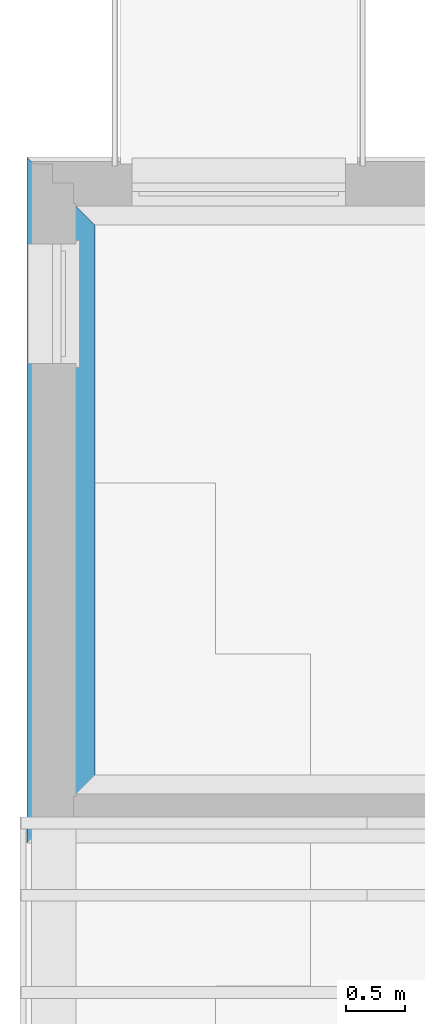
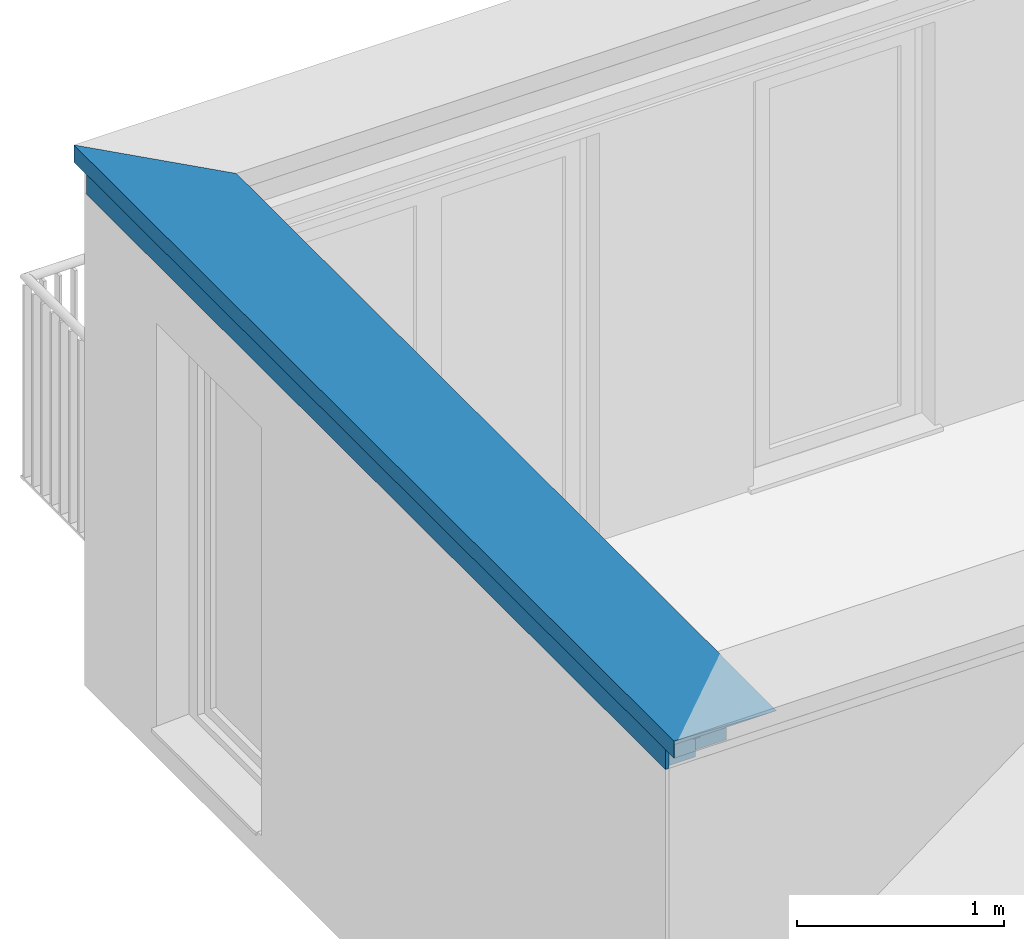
# One storey, part 3 of 15: 1 beam.
"""IFC4 building model written with IfcOpenShell, lengths in metres."""

from ifc_helpers import new_model, entity, si_unit, converted_unit, derived_unit, direction, frame, origin_with_axes, place, context, subcontext, project, spatial, triangles, material, constituent, constituent_set, type_object, element, save


model = new_model("IFC4")

# Units and contexts
model_context = context("Model", 3, precision=1e-05, world=origin_with_axes(), true_north=direction((-0.526213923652, 0.850352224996)))
body_context = subcontext(model_context, "Body", "Model", "MODEL_VIEW")
ifc_project = project(units=[si_unit("LENGTHUNIT", "METRE"), si_unit("AREAUNIT", "SQUARE_METRE"), si_unit("VOLUMEUNIT", "CUBIC_METRE"), converted_unit("PLANEANGLEUNIT", "DEGREE", entity("IfcPlaneAngleMeasure", 0.0174532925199), si_unit("PLANEANGLEUNIT", "RADIAN"), dimensions=[0, 0, 0, 0, 0, 0, 0]), si_unit("SOLIDANGLEUNIT", "STERADIAN"), converted_unit("TIMEUNIT", "Year", entity("IfcTimeMeasure", 31556926.0), si_unit("TIMEUNIT", "SECOND"), dimensions=[0, 0, 1, 0, 0, 0, 0]), si_unit("MASSUNIT", "GRAM", prefix="KILO"), si_unit("THERMODYNAMICTEMPERATUREUNIT", "DEGREE_CELSIUS"), si_unit("LUMINOUSINTENSITYUNIT", "LUMEN"), si_unit("ENERGYUNIT", "JOULE", prefix="MEGA"), derived_unit("THERMALCONDUCTANCEUNIT", [(si_unit("POWERUNIT", "WATT"), 1), (si_unit("LENGTHUNIT", "METRE"), -1), (si_unit("THERMODYNAMICTEMPERATUREUNIT", "KELVIN"), -1)]), derived_unit("SPECIFICHEATCAPACITYUNIT", [(si_unit("ENERGYUNIT", "JOULE"), 1), (si_unit("MASSUNIT", "GRAM", prefix="KILO"), -1), (si_unit("THERMODYNAMICTEMPERATUREUNIT", "KELVIN"), -1)]), derived_unit("MASSDENSITYUNIT", [(si_unit("MASSUNIT", "GRAM", prefix="KILO"), 1), (si_unit("VOLUMEUNIT", "CUBIC_METRE"), -1)])], contexts=[model_context])

# Site, building, storey, space
site_placement = place(None, origin_with_axes())
site = spatial("IfcSite", under=ifc_project, at=site_placement, Name="Gelände", CompositionType="ELEMENT")
building_placement = place(site_placement, origin_with_axes())
building = spatial("IfcBuilding", under=site, at=building_placement, Name="Haus vom Nikolaus", CompositionType="ELEMENT")
storey_placement = place(building_placement, frame((0.0, 0.0, 3.75), z_axis=(0.0, 0.0, 1.0), x_axis=(1.0, 0.0, 0.0)))
storey = spatial("IfcBuildingStorey", under=building, at=storey_placement, Name="1. OG", CompositionType="ELEMENT", Elevation=3.75)
space_placement = place(storey_placement, frame((-0.115002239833, 5.36483188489, 0.0), z_axis=(0.0, 0.0, 1.0), x_axis=(-1.0, 0.0, 0.0)))
space = spatial("IfcSpace", under=storey, at=space_placement, Name="OG", CompositionType="ELEMENT")

# Beam
ifc_material_1 = material(Name="Metall, Stahl verzinkt")
ifc_constituent_1 = constituent(ifc_material_1, Name="Component 1")
ifc_material_2 = material(Name="Holz, Spanplatte")
ifc_constituent_2 = constituent(ifc_material_2, Name="Component 2")
ifc_material_3 = material(Name="Dämmung, hart XPS")
ifc_constituent_3 = constituent(ifc_material_3, Name="Component 3")
ifc_material_4 = material(Name="Holz, Bauholz")
ifc_constituent_4 = constituent(ifc_material_4, Name="Component 4")
ifc_material_5 = material(Name="Holz, Brettschichtholz")
ifc_constituent_5 = constituent(ifc_material_5, Name="Component 5")
ifc_material_6 = material(Name="MW Kalksandstein")
ifc_constituent_6 = constituent(ifc_material_6, Name="Component 6")
ifc_constituent_7 = constituent(ifc_material_3, Name="Component 7")
ifc_constituent_8 = constituent(ifc_material_4, Name="Component 8")
ifc_material_7 = material(Name="Verputz, Kalkzement")
ifc_constituent_9 = constituent(ifc_material_7, Name="Component 9")
ifc_constituent_set = constituent_set(constituents=[ifc_constituent_1, ifc_constituent_2, ifc_constituent_3, ifc_constituent_4, ifc_constituent_5, ifc_constituent_6, ifc_constituent_7, ifc_constituent_8, ifc_constituent_9], Name="Bauteil - Attika Mauerwerk")
beam_type = type_object("IfcBeamType", Name="Bauteil - Attika Mauerwerk 574 x 270", PredefinedType="NOTDEFINED")
beam_placement = place(space_placement, frame((-0.1799998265, -7.45000017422, 2.82000000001), z_axis=(0.0, 0.0, 1.0), x_axis=(0.0, 1.0, 0.0)))
element("IfcBeam", 1, at=beam_placement, inside=space, type_object=beam_type, material=ifc_constituent_set, Name="Attika-Wand-008", ObjectType="Bauteil - Attika Mauerwerk 574 x 270", context=body_context, shape_type="Tessellation", body=[
    triangles([(5.56785996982, -0.215945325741, 0.249909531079), (5.56785996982, -0.217859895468, 0.249909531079), (5.5669026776, -0.216902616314, 0.248952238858), (-0.215945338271, -0.217859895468, 0.249909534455), (-0.216902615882, -0.216902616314, 0.248952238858), (5.56650615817, -0.214591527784, 0.251263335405), (-0.207733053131, -0.207733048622, 0.258121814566), (-0.214591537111, -0.214591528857, 0.251263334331), (5.55964768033, -0.207733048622, 0.258121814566), (5.56785996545, -0.21459152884, 0.251263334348), (5.56785996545, -0.179090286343, 0.348504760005), (5.56785996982, -0.217859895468, 0.349908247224), (5.56785996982, -0.216512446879, 0.348504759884), (5.56785996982, -0.216506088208, 0.251263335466), (-0.216510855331, -0.217859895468, 0.324039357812), (-0.179090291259, -0.217859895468, 0.348504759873), (-0.216511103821, -0.217859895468, 0.327839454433), (-0.214591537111, -0.217859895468, 0.251263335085), (-0.21785990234, -0.217859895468, 0.349908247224), (-0.216506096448, -0.217859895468, 0.251263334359), (-0.216506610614, -0.217859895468, 0.259126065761), (-0.216512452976, -0.217859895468, 0.34847171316), (-0.216512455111, -0.217859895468, 0.348504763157), (-0.216510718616, -0.217859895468, 0.321948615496), (-0.216510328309, -0.217859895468, 0.315979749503), (-0.216509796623, -0.217859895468, 0.307848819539), (-0.216509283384, -0.217859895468, 0.300000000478), (-0.214591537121, -0.216506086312, 0.251263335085), (-0.207733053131, -0.209647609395, 0.258121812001), (5.55864343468, -0.208643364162, 0.259126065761), (-0.208643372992, -0.208643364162, 0.259126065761), (5.56650615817, -0.216506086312, 0.251263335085), (-0.179090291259, -0.216512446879, 0.348504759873), (-0.216509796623, -0.216509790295, 0.307848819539), (-0.216510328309, -0.216510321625, 0.315979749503), (5.56651251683, -0.216512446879, 0.348504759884), (-0.216506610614, -0.216506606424, 0.259126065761), (-0.216506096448, -0.216506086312, 0.251263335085), (-0.216509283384, -0.216509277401, 0.300000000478), (-0.216510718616, -0.21651071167, 0.321948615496), (-0.216510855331, -0.216510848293, 0.324039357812), (-0.216511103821, -0.216511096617, 0.327839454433), (-0.216512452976, -0.216512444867, 0.34847171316), (-0.216512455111, -0.216512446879, 0.348504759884), (5.56651251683, -0.179090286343, 0.348504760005), (0.355692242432, 0.355692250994, 0.329145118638), (5.03173113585, 0.355692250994, 0.329145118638), (5.56563621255, -0.178177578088, 0.348471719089), (-0.178177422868, -0.178177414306, 0.34847171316), (-0.179090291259, -0.179090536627, 0.348504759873), (-0.178177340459, -0.215636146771, 0.348471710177), (5.56563621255, -0.215636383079, 0.348471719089), (4.99566162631, 0.354338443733, 0.327839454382), (4.99566162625, 0.355692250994, 0.327839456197), (4.99566163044, 0.355692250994, 0.324039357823), (0.355692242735, 0.355692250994, 0.324039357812), (4.99566163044, 0.355692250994, 0.321948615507), (0.355692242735, 0.355692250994, 0.321948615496), (4.99566163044, 0.355692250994, 0.322638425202), (4.99622238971, 0.355692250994, 0.229554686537), (0.355692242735, 0.355692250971, 0.229554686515), (4.9956616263, 0.355692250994, 0.230908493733), (4.99757619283, 0.355692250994, 0.230908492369), (0.355692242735, 0.355692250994, 0.230908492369), (0.355692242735, 0.355692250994, 0.238724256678), (4.99566163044, 0.355692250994, 0.238724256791), (0.355692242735, 0.355692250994, 0.239999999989), (4.99566163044, 0.355692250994, 0.239999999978), (4.99566163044, 0.355692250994, 0.248952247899), (0.355692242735, 0.355692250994, 0.248952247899), (4.99566163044, 0.355692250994, 0.251263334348), (0.355692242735, 0.355692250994, 0.251263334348), (4.99566163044, 0.355692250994, 0.259126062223), (0.355692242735, 0.355692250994, 0.259126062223), (4.99566163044, 0.355692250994, 0.320551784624), (0.355692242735, 0.355692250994, 0.327839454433), (0.355692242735, 0.355692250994, 0.315979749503), (4.99566163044, 0.355692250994, 0.315979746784), (0.355692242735, 0.355692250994, 0.307848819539), (4.99566163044, 0.355692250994, 0.307848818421), (4.99566163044, 0.355692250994, 0.300000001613), (0.355692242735, 0.355692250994, 0.300000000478), (0.355692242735, 0.318268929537, 0.329145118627), (0.355692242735, 0.354338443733, 0.327839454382), (4.99566163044, 0.354338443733, 0.324039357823), (4.99566162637, 0.354338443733, 0.230908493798), (4.99757619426, 0.354338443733, 0.230908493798), (4.99526511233, 0.35473497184, 0.228597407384), (4.99757619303, 0.352423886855, 0.230908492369), (0.354734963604, 0.35473497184, 0.228597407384), (0.355692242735, 0.354338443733, 0.230908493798), (0.355692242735, 0.353777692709, 0.229554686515), (0.355692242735, 0.352423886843, 0.230908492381), (0.355692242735, 0.354338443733, 0.238724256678), (0.355692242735, 0.354338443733, 0.239999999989), (0.355692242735, 0.354338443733, 0.248952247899), (0.355692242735, 0.354338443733, 0.251263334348), (0.355692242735, 0.354338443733, 0.259126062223), (0.355692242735, 0.354338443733, 0.300000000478), (0.355692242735, 0.354338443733, 0.307848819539), (0.355692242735, 0.354338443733, 0.315979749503), (0.355692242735, 0.354338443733, 0.321948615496), (0.355692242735, 0.354338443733, 0.324039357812), (4.99566163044, 0.354338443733, 0.322638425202), (4.99566163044, 0.354338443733, 0.321948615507), (4.99566163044, 0.354338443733, 0.320551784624), (4.99566163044, 0.354338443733, 0.315979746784), (4.99566163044, 0.354338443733, 0.307848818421), (4.99566163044, 0.354338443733, 0.300000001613), (4.99566163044, 0.354338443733, 0.259126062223), (4.99566163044, 0.354338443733, 0.251263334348), (4.99566163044, 0.354338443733, 0.248952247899), (4.99566163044, 0.354338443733, 0.239999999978), (4.99566163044, 0.354338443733, 0.238724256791), (5.00347737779, 0.346522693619, 0.238724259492), (5.00448162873, 0.347433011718, 0.237813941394), (0.346522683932, 0.346522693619, 0.238724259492), (0.35433843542, 0.354338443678, 0.23090849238), (5.00448162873, 0.345518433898, 0.237813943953), (0.34743299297, 0.345518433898, 0.237813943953), (0.35433843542, 0.35242388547, 0.23090849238)], [[1, 2, 3], [2, 4, 3], [5, 3, 4], [6, 1, 3], [7, 3, 8], [8, 3, 5], [6, 3, 9], [7, 9, 3], [1, 6, 10], [11, 12, 13], [14, 1, 10], [2, 13, 12], [13, 2, 14], [1, 14, 2], [15, 16, 17], [4, 2, 18], [12, 19, 16], [16, 2, 12], [20, 18, 21], [2, 16, 18], [17, 16, 22], [22, 16, 23], [24, 16, 15], [25, 16, 24], [26, 16, 25], [27, 16, 26], [21, 16, 27], [16, 21, 18], [28, 5, 4], [5, 28, 8], [28, 4, 18], [28, 29, 8], [7, 8, 29], [9, 7, 30], [31, 30, 7], [30, 6, 9], [6, 30, 32], [10, 32, 14], [10, 6, 32], [33, 34, 35], [33, 32, 28], [36, 14, 32], [37, 28, 38], [33, 39, 34], [33, 37, 39], [33, 35, 40], [33, 40, 41], [33, 41, 42], [33, 42, 43], [33, 43, 44], [36, 32, 33], [37, 33, 28], [14, 36, 13], [11, 36, 45], [36, 11, 13], [45, 12, 11], [46, 12, 47], [47, 12, 48], [48, 12, 45], [49, 12, 46], [50, 19, 12], [49, 50, 12], [50, 33, 19], [19, 33, 16], [44, 16, 33], [44, 23, 16], [44, 22, 23], [44, 43, 22], [43, 17, 22], [17, 43, 42], [42, 15, 17], [15, 42, 41], [41, 24, 15], [24, 41, 40], [40, 25, 24], [25, 40, 35], [35, 26, 25], [26, 35, 34], [34, 27, 26], [27, 34, 39], [21, 39, 37], [21, 27, 39], [37, 20, 21], [20, 37, 38], [20, 28, 18], [28, 20, 38], [29, 32, 30], [29, 30, 31], [32, 29, 28], [31, 7, 29], [51, 36, 33], [51, 52, 36], [52, 45, 36], [52, 48, 45], [52, 53, 48], [54, 47, 53], [53, 47, 48], [55, 56, 54], [57, 58, 59], [60, 61, 62], [60, 62, 63], [64, 62, 61], [65, 62, 64], [66, 67, 68], [69, 70, 71], [71, 72, 73], [73, 72, 74], [75, 58, 57], [56, 59, 58], [59, 56, 55], [54, 56, 76], [54, 76, 46], [54, 46, 47], [66, 62, 65], [58, 75, 77], [78, 77, 75], [77, 78, 79], [80, 79, 78], [81, 79, 80], [79, 81, 82], [73, 82, 81], [82, 73, 74], [72, 71, 70], [70, 69, 67], [68, 67, 69], [67, 66, 65], [49, 83, 51], [49, 46, 83], [33, 50, 51], [49, 51, 50], [53, 83, 84], [83, 52, 51], [83, 53, 52], [55, 53, 85], [55, 54, 53], [63, 86, 87], [63, 62, 86], [60, 87, 88], [88, 87, 89], [60, 63, 87], [61, 88, 90], [61, 60, 88], [61, 91, 64], [91, 92, 93], [91, 61, 92], [65, 91, 94], [65, 64, 91], [95, 65, 94], [95, 67, 65], [67, 96, 70], [96, 67, 95], [72, 96, 97], [72, 70, 96], [74, 97, 98], [74, 72, 97], [82, 98, 99], [82, 74, 98], [79, 99, 100], [79, 82, 99], [77, 100, 101], [77, 79, 100], [58, 101, 102], [58, 77, 101], [56, 102, 103], [56, 58, 102], [56, 84, 76], [84, 56, 103], [76, 84, 46], [46, 84, 83], [59, 85, 104], [59, 55, 85], [57, 104, 105], [57, 59, 104], [75, 105, 106], [75, 57, 105], [75, 107, 78], [75, 106, 107], [78, 108, 80], [108, 78, 107], [81, 108, 109], [81, 80, 108], [73, 109, 110], [73, 81, 109], [73, 111, 71], [73, 110, 111], [71, 112, 69], [112, 71, 111], [68, 112, 113], [68, 69, 112], [68, 114, 66], [114, 68, 113], [66, 86, 62], [66, 114, 86], [112, 95, 113], [99, 109, 100], [109, 99, 110], [108, 100, 109], [107, 100, 108], [100, 107, 101], [106, 101, 107], [101, 106, 102], [105, 102, 106], [104, 102, 105], [102, 104, 103], [85, 103, 104], [53, 103, 85], [103, 53, 84], [110, 98, 111], [98, 110, 99], [97, 111, 98], [111, 97, 112], [96, 112, 97], [95, 112, 96], [113, 95, 114], [94, 114, 95], [114, 94, 86], [91, 86, 94], [87, 115, 116], [115, 91, 117], [115, 87, 86], [91, 115, 86], [117, 91, 118], [116, 89, 87], [89, 116, 119], [89, 93, 88], [93, 120, 121], [90, 88, 92], [88, 93, 92], [93, 119, 120], [119, 93, 89], [90, 92, 61], [118, 93, 121], [93, 118, 91], [117, 121, 120], [117, 118, 121], [115, 120, 119], [115, 117, 120], [115, 119, 116]], closed=True),
    triangles([(5.56635953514, -0.216359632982, 0.327753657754), (0.354335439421, -0.216359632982, 0.327753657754), (5.45999593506, -0.109995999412, 0.324039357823), (0.354205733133, -0.109995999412, 0.324039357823), (5.56635969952, 0.35433544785, 0.327753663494), (5.45999593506, 0.354205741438, 0.324039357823), (5.56563621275, -0.215636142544, 0.348471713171), (0.354338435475, -0.216356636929, 0.327839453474), (5.56635670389, -0.216356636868, 0.32783945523), (-0.215635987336, -0.215636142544, 0.348471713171), (0.354338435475, 0.354338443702, 0.327839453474), (0.354205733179, 0.354205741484, 0.324039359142), (5.41987861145, -0.0698786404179, 0.322638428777), (5.40012505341, -0.0501249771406, 0.321948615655), (0.354132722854, -0.0501249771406, 0.321948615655), (5.41987861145, 0.354156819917, 0.322638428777), (5.56635670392, 0.354338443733, 0.327839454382), (5.40012504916, 0.354132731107, 0.321948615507), (5.36012504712, 0.354083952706, 0.320551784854), (5.22919902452, 0.353924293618, 0.315979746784), (4.99635971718, 0.353640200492, 0.307848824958), (0.353924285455, 0.353924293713, 0.315979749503), (0.353640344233, 0.353640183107, 0.307848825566), (0.354132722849, 0.354132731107, 0.321948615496), (5.36012504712, -0.0101249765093, 0.320551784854), (0.353924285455, 0.120800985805, 0.315979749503), (5.22919902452, 0.120801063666, 0.315979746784)], [[1, 2, 3], [4, 3, 2], [5, 3, 6], [3, 5, 1], [7, 8, 9], [7, 10, 8], [9, 8, 1], [8, 2, 1], [8, 11, 4], [8, 4, 2], [12, 4, 11], [3, 4, 13], [14, 4, 15], [4, 14, 13], [6, 13, 16], [13, 6, 3], [11, 17, 6], [11, 18, 19], [11, 20, 21], [11, 19, 20], [22, 21, 23], [24, 21, 22], [12, 21, 24], [11, 21, 12], [5, 6, 17], [11, 16, 18], [11, 6, 16], [1, 5, 9], [17, 9, 5], [17, 7, 9], [11, 7, 17], [7, 11, 10], [11, 8, 10], [4, 12, 15], [24, 15, 12], [14, 15, 25], [21, 26, 23], [21, 15, 26], [27, 25, 15], [27, 15, 21], [16, 14, 18], [14, 16, 13], [18, 25, 19], [25, 18, 14], [19, 27, 20], [27, 19, 25], [20, 27, 21], [23, 26, 22], [15, 24, 26], [22, 26, 24]], closed=True),
    triangles([(0.310282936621, 0.31028294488, 0.300000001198), (5.15000006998, 0.2, 0.300000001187), (5.15000006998, 0.31028294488, 0.300000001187), (0.310282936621, 0.2, 0.300000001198), (5.15000006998, 0.31028294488, 0.259126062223), (5.15000006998, 0.2, 0.259126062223), (0.310282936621, 0.31028294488, 0.248952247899), (5.15000006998, 0.31028294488, 0.248952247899), (0.310282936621, 0.31028294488, 0.239999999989), (5.15000006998, 0.31028294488, 0.23872425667), (0.310282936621, 0.31028294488, 0.23872425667), (5.15000006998, 0.31028294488, 0.239999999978), (0.310282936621, 0.31028294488, 0.230908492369), (5.15000006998, 0.31028294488, 0.230908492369), (0.310282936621, 0.31028294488, 0.22859740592), (5.15000006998, 0.31028294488, 0.22859740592), (0.310282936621, 0.31028294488, 0.079999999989), (5.15000006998, 0.31028294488, 0.079999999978), (5.15000006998, 0.31028294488, 0.251263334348), (0.310282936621, 0.31028294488, 0.251263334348), (0.310282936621, 0.31028294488, 0.259126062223), (0.310282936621, 0.2, 0.259126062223), (5.15000006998, 0.2, 0.248952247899), (0.310282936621, 0.2, 0.251263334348), (0.310282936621, 0.2, 0.248952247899), (5.15000006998, 0.2, 0.239999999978), (0.310282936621, 0.2, 0.23872425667), (5.15000006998, 0.2, 0.23872425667), (0.310282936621, 0.2, 0.230908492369), (5.15000006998, 0.2, 0.230908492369), (5.15000006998, 0.2, 0.22859740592), (0.310282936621, 0.2, 0.22859740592), (0.310282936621, 0.2, 0.079999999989), (5.15000006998, 0.2, 0.079999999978), (5.15000006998, 0.2, 0.251263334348), (0.310282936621, 0.2, 0.239999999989)], [[1, 2, 3], [1, 4, 2], [2, 5, 3], [2, 6, 5], [7, 8, 9], [10, 11, 12], [9, 12, 11], [11, 10, 13], [14, 13, 10], [13, 14, 15], [16, 15, 14], [15, 16, 17], [17, 16, 18], [8, 7, 19], [12, 9, 8], [20, 19, 7], [19, 20, 5], [21, 5, 20], [5, 21, 3], [1, 3, 21], [21, 4, 1], [21, 22, 4], [2, 22, 6], [22, 2, 4], [23, 24, 25], [24, 6, 22], [26, 27, 28], [29, 30, 27], [30, 29, 31], [31, 29, 32], [31, 33, 34], [35, 6, 24], [33, 31, 32], [28, 27, 30], [27, 26, 36], [23, 36, 26], [36, 23, 25], [35, 24, 23], [35, 5, 6], [35, 19, 5], [23, 19, 35], [23, 8, 19], [26, 8, 23], [26, 12, 8], [10, 26, 28], [26, 10, 12], [30, 10, 28], [30, 14, 10], [31, 14, 30], [31, 16, 14], [34, 16, 31], [34, 18, 16], [33, 18, 34], [33, 17, 18], [33, 15, 17], [15, 33, 32], [15, 29, 13], [15, 32, 29], [13, 27, 11], [13, 29, 27], [11, 36, 9], [11, 27, 36], [9, 25, 7], [9, 36, 25], [7, 24, 20], [7, 25, 24], [20, 22, 21], [20, 24, 22]], closed=True),
    triangles([(0.180110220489, 0.180110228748, 0.313880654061), (5.23000007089, 0.12, 0.315979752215), (5.23000007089, 0.180110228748, 0.313880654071), (0.119999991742, 0.12, 0.315979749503), (5.23000007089, 0.12, 0.307848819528), (5.23000007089, 0.18006232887, 0.307848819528), (0.180062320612, 0.18006232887, 0.307848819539), (5.23000007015, 0.18, 0.300000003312), (0.179999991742, 0.18, 0.300000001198), (0.180110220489, 0.12, 0.313880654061), (5.23000007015, 0.12, 0.300000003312), (0.180062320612, 0.12, 0.307848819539), (0.179999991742, 0.12, 0.300000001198)], [[1, 2, 3], [1, 4, 2], [5, 3, 2], [3, 5, 6], [6, 1, 3], [7, 8, 9], [1, 8, 7], [8, 1, 6], [10, 4, 1], [2, 10, 5], [10, 2, 4], [11, 10, 12], [11, 12, 13], [10, 11, 5], [8, 5, 11], [5, 8, 6], [13, 8, 11], [13, 9, 8], [9, 12, 7], [9, 13, 12], [10, 7, 12], [7, 10, 1]], closed=True),
    triangles([(0.199999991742, 0.2, 0.259126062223), (5.40001871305, 0.2, 0.248952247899), (0.199999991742, 0.2, 0.251263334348), (5.40000007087, 0.2, 0.240000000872), (0.199999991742, 0.2, 0.248952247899), (0.199999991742, 0.2, 0.239999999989), (5.40002352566, 0.2, 0.251263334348), (0.199999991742, 0.2, 0.300000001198), (5.40003989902, 0.2, 0.259126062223), (5.40012501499, 0.2, 0.300000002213), (5.40012501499, 0.18, 0.300000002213), (5.40012501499, -0.0501249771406, 0.300000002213), (5.40012501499, 0.12, 0.300000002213), (5.40003989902, -0.160039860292, 0.259126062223), (5.40012501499, -0.110124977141, 0.300000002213), (5.40012501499, -0.160124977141, 0.300000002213), (5.40002352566, -0.160023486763, 0.251263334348), (5.40001871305, -0.160018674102, 0.248952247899), (5.40000007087, -0.160000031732, 0.240000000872), (0.199999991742, -0.160000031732, 0.239999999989), (0.199999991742, -0.160018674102, 0.248952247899), (0.199999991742, -0.160023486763, 0.251263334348), (0.199999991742, -0.160039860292, 0.259126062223), (0.199999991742, -0.0501249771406, 0.300000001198), (0.199999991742, -0.110124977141, 0.300000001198), (0.199999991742, 0.18, 0.300000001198), (0.199999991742, 0.12, 0.300000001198), (0.199999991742, -0.160124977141, 0.300000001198)], [[1, 2, 3], [4, 5, 2], [3, 2, 5], [5, 4, 6], [2, 1, 7], [8, 9, 1], [7, 1, 9], [9, 8, 10], [11, 9, 10], [12, 9, 13], [13, 9, 11], [9, 12, 14], [15, 14, 12], [16, 14, 15], [17, 9, 14], [17, 7, 9], [18, 7, 17], [18, 2, 7], [19, 2, 18], [19, 4, 2], [20, 4, 19], [20, 6, 4], [20, 5, 6], [5, 20, 21], [21, 3, 5], [3, 21, 22], [22, 1, 3], [1, 22, 23], [24, 23, 25], [1, 26, 8], [27, 26, 1], [25, 23, 28], [23, 24, 1], [27, 1, 24], [8, 11, 10], [8, 26, 11], [26, 13, 11], [26, 27, 13], [27, 12, 13], [27, 24, 12], [24, 15, 12], [24, 25, 15], [25, 16, 15], [25, 28, 16], [23, 14, 28], [28, 14, 16], [18, 23, 22], [19, 21, 20], [18, 21, 19], [17, 14, 23], [21, 18, 22], [17, 23, 18]], closed=True),
    triangles([(0.199999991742, 0.2, 0.239999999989), (5.35000006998, 0.0, 0.239999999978), (5.35000006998, 0.2, 0.239999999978), (0.199999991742, 0.0, 0.239999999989), (5.35000006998, 0.2, 0.23872425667), (5.35000006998, 0.0, 0.23872425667), (0.199999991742, 0.2, 0.23872425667), (0.199999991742, 0.2, 0.230908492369), (5.35000006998, 0.2, 0.22859740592), (0.199999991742, 0.2, 0.22859740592), (5.35000006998, 0.2, 0.230908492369), (0.199999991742, 0.2, 0.0800000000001), (5.35000006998, 0.2, 0.079999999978), (0.199999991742, 0.0, 0.23872425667), (5.35000006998, 0.0, 0.22859740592), (0.199999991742, 0.0, 0.230908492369), (0.199999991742, 0.0, 0.22859740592), (0.199999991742, 0.0, 0.0800000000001), (5.35000006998, 0.0, 0.079999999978), (5.35000006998, 0.0, 0.230908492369)], [[1, 2, 3], [1, 4, 2], [2, 5, 3], [2, 6, 5], [7, 5, 8], [9, 10, 11], [8, 11, 10], [10, 9, 12], [12, 9, 13], [5, 7, 3], [11, 8, 5], [1, 3, 7], [7, 4, 1], [7, 14, 4], [2, 14, 6], [14, 2, 4], [15, 16, 17], [16, 6, 14], [15, 18, 19], [20, 6, 16], [18, 15, 17], [20, 16, 15], [20, 5, 6], [20, 11, 5], [15, 11, 20], [15, 9, 11], [19, 9, 15], [19, 13, 9], [18, 13, 19], [18, 12, 13], [18, 10, 12], [10, 18, 17], [10, 16, 8], [10, 17, 16], [8, 14, 7], [8, 16, 14]], closed=True),
    triangles([(-8.2582243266e-09, 0.0, 0.239999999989), (5.40000007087, -0.16, 0.240000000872), (5.40000007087, 0.0, 0.240000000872), (-8.2582243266e-09, -0.16, 0.239999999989), (5.40000007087, -0.16, 0.23872425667), (5.40000007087, 0.0, 0.23872425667), (-8.2582243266e-09, 0.0, 0.23872425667), (-8.2582243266e-09, 0.0, 0.230908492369), (5.40000007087, 0.0, 0.22859740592), (-8.25822255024e-09, 0.0, 0.22859740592), (5.40000007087, 0.0, 0.230908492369), (-8.25820123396e-09, 0.0, 0.0799999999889), (5.40000007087, 0.0, 0.079999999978), (-8.2582243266e-09, -0.16, 0.23872425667), (5.40000007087, -0.16, 0.230908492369), (-8.25822255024e-09, -0.16, 0.22859740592), (5.40000007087, -0.16, 0.22859740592), (-8.2582243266e-09, -0.16, 0.230908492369), (-8.25820123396e-09, -0.16, 0.0799999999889), (5.40000007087, -0.16, 0.079999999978)], [[1, 2, 3], [1, 4, 2], [5, 3, 2], [3, 5, 6], [7, 6, 8], [9, 10, 11], [8, 11, 10], [10, 9, 12], [12, 9, 13], [11, 8, 6], [6, 1, 3], [1, 6, 7], [7, 4, 1], [7, 14, 4], [14, 5, 4], [4, 5, 2], [15, 16, 17], [18, 5, 14], [17, 19, 20], [15, 5, 18], [19, 17, 16], [16, 15, 18], [15, 6, 5], [15, 11, 6], [17, 11, 15], [17, 9, 11], [20, 9, 17], [20, 13, 9], [19, 13, 20], [19, 12, 13], [19, 10, 12], [10, 19, 16], [10, 18, 8], [10, 16, 18], [8, 14, 7], [8, 18, 14]], closed=True),
    triangles([(-0.109996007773, -0.109995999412, 0.324039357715), (5.41987861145, -0.0698786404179, 0.322638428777), (-0.0501249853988, -0.0501249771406, 0.321948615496), (5.56651091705, -0.109995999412, 0.324039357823), (5.56651082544, -0.0698785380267, 0.322638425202), (5.41988231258, -0.0501249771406, 0.321948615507), (5.56651082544, -0.110003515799, 0.322638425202), (5.41987861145, -0.11000351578, 0.322638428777), (5.41988231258, -0.110007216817, 0.321948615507), (5.41988980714, -0.0501249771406, 0.320551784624), (-0.0501249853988, -0.0501249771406, 0.307848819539), (-0.0501249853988, -0.0501249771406, 0.300000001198), (5.42000007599, -0.0501249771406, 0.300000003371), (5.41995796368, -0.0501249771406, 0.307848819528), (5.41991433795, -0.0501249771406, 0.315979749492), (-0.0501249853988, -0.0501249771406, 0.315979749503), (-0.0501249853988, -0.110007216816, 0.321948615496), (-0.0501249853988, -0.110082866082, 0.307848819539), (-0.0501249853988, -0.110039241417, 0.315979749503), (5.41988980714, -0.110014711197, 0.320551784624), (-0.0501249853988, -0.110124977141, 0.300000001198), (5.41991433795, -0.110039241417, 0.315979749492), (5.41995796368, -0.110082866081, 0.307848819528), (5.42000007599, -0.110124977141, 0.300000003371)], [[1, 2, 3], [2, 4, 5], [3, 2, 6], [2, 1, 4], [4, 7, 5], [2, 7, 8], [7, 2, 5], [2, 9, 6], [2, 8, 9], [10, 11, 6], [11, 10, 12], [13, 12, 14], [12, 10, 15], [16, 6, 11], [14, 12, 15], [3, 6, 16], [17, 1, 3], [18, 8, 19], [4, 1, 8], [20, 21, 22], [22, 21, 23], [23, 21, 24], [8, 7, 4], [21, 20, 18], [9, 18, 20], [19, 8, 17], [8, 18, 9], [17, 8, 1], [10, 9, 20], [9, 10, 6], [15, 20, 22], [20, 15, 10], [14, 22, 23], [22, 14, 15], [13, 23, 24], [23, 13, 14], [21, 13, 24], [21, 12, 13], [12, 18, 11], [12, 21, 18], [11, 19, 16], [11, 18, 19], [16, 17, 3], [16, 19, 17]], closed=True),
    triangles([(-0.160018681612, -0.180000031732, 0.248952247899), (5.42000006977, -0.180000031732, 0.259126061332), (-0.160023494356, -0.180000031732, 0.251263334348), (5.42000007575, -0.180000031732, 0.300000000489), (-0.160039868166, -0.180000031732, 0.259126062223), (-0.160124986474, -0.180000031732, 0.300000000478), (-0.160000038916, -0.180000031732, 0.239999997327), (5.42000006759, -0.180000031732, 0.251263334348), (5.42000006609, -0.180000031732, 0.248952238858), (-0.160000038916, -0.180000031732, 0.23872425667), (-0.160000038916, -0.180000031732, 0.230908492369), (-0.160000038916, -0.180000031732, 0.22859740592), (5.42000006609, -0.180000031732, 0.0799999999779), (-0.160000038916, -0.180000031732, 0.079999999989), (5.42000006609, -0.160000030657, 0.239999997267), (5.42000006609, -0.160000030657, 0.0799999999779), (5.42000006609, -0.160018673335, 0.248952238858), (5.42000006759, -0.160023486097, 0.251263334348), (5.42000006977, -0.160039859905, 0.259126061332), (5.42000007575, -0.160124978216, 0.300000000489), (-0.160124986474, -0.160124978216, 0.300000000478), (-0.160039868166, -0.160039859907, 0.259126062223), (-0.160023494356, -0.160023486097, 0.251263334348), (-0.160018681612, -0.160018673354, 0.248952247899), (-0.160000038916, -0.160000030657, 0.239999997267), (-0.160000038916, -0.160000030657, 0.23872425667), (-0.160000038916, -0.160000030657, 0.230908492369), (-0.160000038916, -0.160000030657, 0.22859740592), (-0.160000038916, -0.160000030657, 0.079999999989)], [[1, 2, 3], [4, 5, 2], [3, 2, 5], [5, 4, 6], [7, 8, 1], [2, 1, 8], [8, 7, 9], [10, 9, 7], [11, 9, 10], [12, 9, 11], [9, 12, 13], [14, 13, 12], [15, 13, 16], [17, 9, 15], [13, 15, 9], [18, 9, 17], [18, 8, 9], [19, 8, 18], [8, 19, 2], [20, 2, 19], [2, 20, 4], [21, 4, 20], [21, 6, 4], [21, 5, 6], [21, 22, 5], [22, 3, 5], [3, 22, 23], [23, 1, 3], [1, 23, 24], [24, 7, 1], [24, 25, 7], [25, 10, 7], [25, 26, 10], [26, 11, 10], [26, 27, 11], [27, 12, 11], [27, 28, 12], [28, 14, 12], [28, 29, 14], [14, 16, 13], [14, 29, 16], [15, 28, 27], [28, 16, 29], [15, 27, 26], [15, 26, 25], [28, 15, 16], [24, 18, 25], [25, 18, 17], [25, 17, 15], [19, 23, 22], [19, 24, 23], [20, 22, 21], [24, 19, 18], [19, 22, 20]], closed=True),
])

save(model, "model.ifc")
